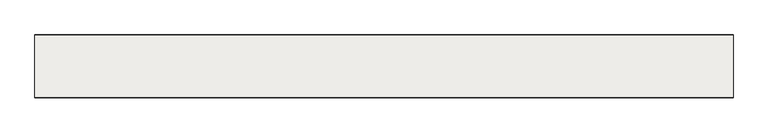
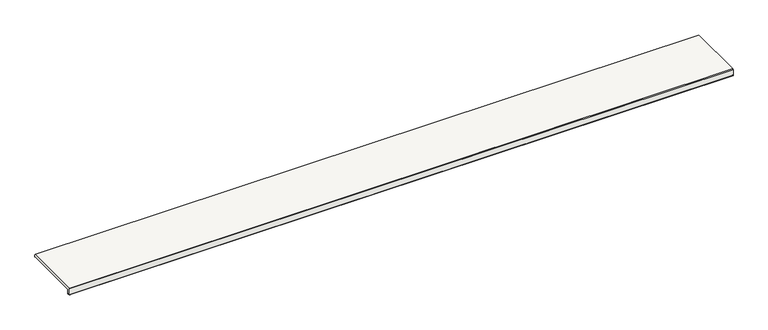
"""IFC4 building model written with IfcOpenShell, lengths in millimetres: slab geometry, ROSA GRES_L62 : Pieza L62_Serena_Ocra_Anti-Slip."""

from ifc_helpers import new_model, si_unit, point, frame, frame_2d, origin, place, context, project, spatial, polyline, circle_curve, trimmed, segment, composite_curve, outline, extrude, source, transform, mapped, element, save


def slab_60ad5168(model_context):
    return source(origin(), model_context, "Body", "SweptSolid", [
        extrude(outline(composite_curve([segment(polyline([(12.1001991, -37.0), (9.4054777, -37.0)]), True, "CONTINUOUS"), segment(trimmed(circle_curve(frame_2d((7.4142134, -37.0)), 1.9912643), [point((9.4054777, -37.0))], [point((5.422949, -37.0))], True, "CARTESIAN"), True, "CONTINUOUS"), segment(polyline([(5.422949, -37.0), (2.5, -37.0)]), True, "CONTINUOUS"), segment(trimmed(circle_curve(frame_2d((2.5, -34.5)), 2.5), [point((2.5, -37.0))], [point((0.0, -34.5))], False, "CARTESIAN"), True, "CONTINUOUS"), segment(polyline([(0.0, -34.5), (0.0, -2.5), (2.5, 0.0), (315.5, 0.0), (317.0, -2.5), (317.0, -12.4648352)]), True, "CONTINUOUS"), segment(trimmed(circle_curve(frame_2d((315.5234432, -12.4648352)), 1.4765568), [point((317.0, -12.4648352))], [point((315.5234432, -13.9413919))], False, "CARTESIAN"), True, "CONTINUOUS"), segment(polyline([(315.5234432, -13.9413919), (16.6422322, -13.9413919)]), True, "CONTINUOUS"), segment(trimmed(circle_curve(frame_2d((16.6422322, -16.5836242)), 2.6422322), [point((16.6422322, -13.9413919))], [point((14.0, -16.5836242))], True, "CARTESIAN"), True, "CONTINUOUS"), segment(polyline([(14.0, -16.5836242), (14.0, -35.1001991)]), True, "CONTINUOUS"), segment(trimmed(circle_curve(frame_2d((12.1001991, -35.1001991)), 1.8998009), [point((14.0, -35.1001991))], [point((12.1001991, -37.0))], False, "CARTESIAN"), True, "CONTINUOUS")], self_intersect=False)), frame((0.0, 0.0, 0.0), z_axis=(1.0, 0.0, 0.0), x_axis=(0.0, 1.0, 0.0)), (0.0, 0.0, 1.0), 3525.0),
    ])


if __name__ == "__main__":
    model = new_model("IFC4")
    model_context = context("Model", 3, world=origin())
    ifc_project = project(units=[si_unit("LENGTHUNIT", "METRE", prefix="MILLI")], contexts=[model_context])
    site = spatial("IfcSite", under=ifc_project)
    building = spatial("IfcBuilding", under=site)
    placement = place(None, origin())
    slab_shape = slab_60ad5168(model_context)
    element("IfcSlab", 1, ObjectType="ROSA GRES_L62 : Pieza L62_Serena_Ocra_Anti-Slip", at=placement, inside=building, context=model_context, shape_type="MappedRepresentation", body=[
        mapped(slab_shape, transform((0.0, 0.0, 0.0), x_axis=(1.0, 0.0, 0.0), y_axis=(0.0, 1.0, 0.0), z_axis=(0.0, 0.0, 1.0))),
    ])
    save(model, "model.ifc")
